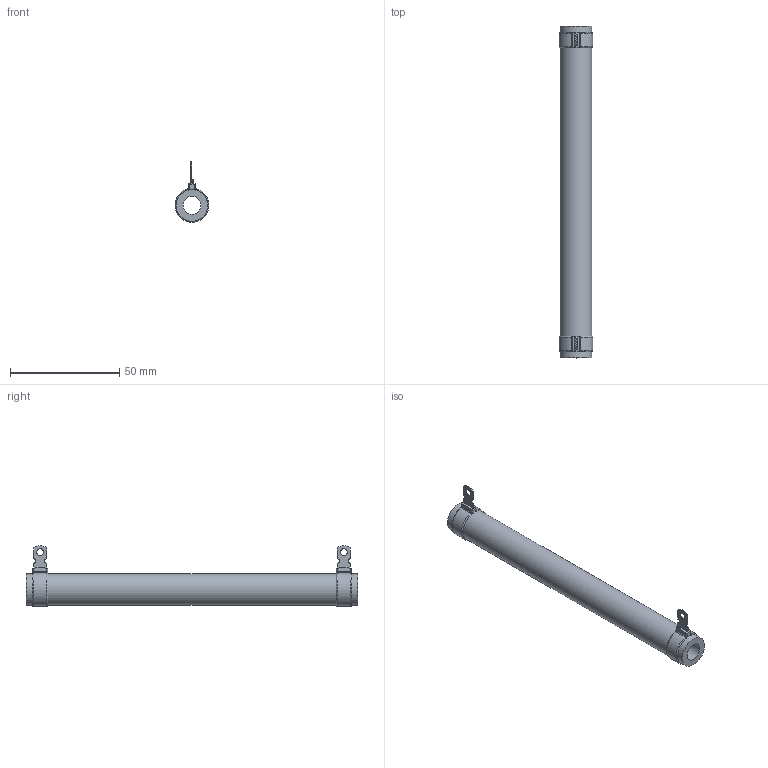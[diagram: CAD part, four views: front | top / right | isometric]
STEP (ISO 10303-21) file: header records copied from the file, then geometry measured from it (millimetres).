
FILE_DESCRIPTION(/* description */ (''),/* implementation_level */ '2;1');
FILE_NAME(/* name */ 'C:\_Vault\Dati\CATALOGO\RCA-RSA\25-1000\CA0075.stp',/* time_stamp */ '2014-01-22T14:51:28+01:00',/* author */ ('stefano'),/* organization */ (''),/* preprocessor_version */ 'ST-DEVELOPER v15.2',/* originating_system */ 'Autodesk Inventor 2014',/* authorisation */ '');
FILE_SCHEMA (('AUTOMOTIVE_DESIGN { 1 0 10303 214 3 1 1 }'));
Length unit declared in the file: millimetre
Products named in the file (1): CA0075
Bounding box: 15.49 x 152 x 27.75 mm (x, y, z)
Volume: 17540.3 mm3; surface area: 11505.8 mm2
Topology: 1 solids, 1 shells, 77 faces, 184 edges, 114 vertices
Faces by surface type: plane 35, cylinder 30, torus 12
Full cylindrical faces by diameter (mm): 3.2 x2, 8.2 x1, 14.5 x3
Entity records: 2371 total; most frequent: CARTESIAN_POINT 438, DIRECTION 406, ORIENTED_EDGE 352, EDGE_CURVE 176, AXIS2_PLACEMENT_3D 160, VERTEX_POINT 112, EDGE_LOOP 94, LINE 86
